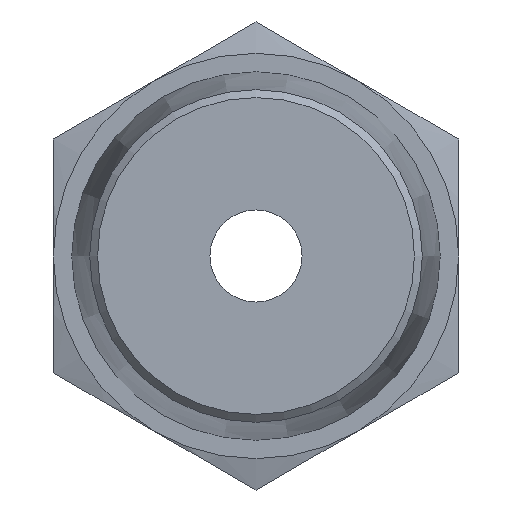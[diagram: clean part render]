
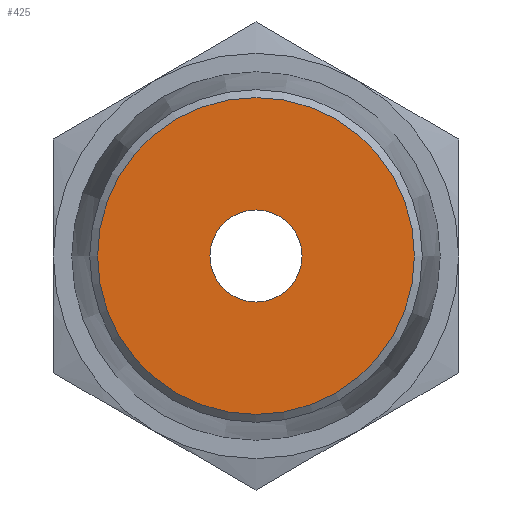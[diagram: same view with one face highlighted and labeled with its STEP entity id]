
A CAD part, front view. The second image highlights one B-rep face of the part: STEP entity #425.
In plain terms, the highlighted planar face has unit normal (0, -1, 0).
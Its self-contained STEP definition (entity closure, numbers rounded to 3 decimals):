
#43=FACE_BOUND('',#95,.T.);
#49=PLANE('',#483);
#63=FACE_OUTER_BOUND('',#94,.T.);
#94=EDGE_LOOP('',(#292));
#95=EDGE_LOOP('',(#293));
#157=CIRCLE('',#480,4.3);
#159=CIRCLE('',#484,1.25);
#183=VERTEX_POINT('',#669);
#185=VERTEX_POINT('',#677);
#222=EDGE_CURVE('',#183,#183,#157,.T.);
#225=EDGE_CURVE('',#185,#185,#159,.T.);
#292=ORIENTED_EDGE('',*,*,#222,.F.);
#293=ORIENTED_EDGE('',*,*,#225,.T.);
#425=ADVANCED_FACE('',(#63,#43),#49,.T.);
#480=AXIS2_PLACEMENT_3D('',#671,#543,#544);
#483=AXIS2_PLACEMENT_3D('',#676,#550,#551);
#484=AXIS2_PLACEMENT_3D('',#678,#552,#553);
#543=DIRECTION('center_axis',(0.,1.,0.));
#544=DIRECTION('ref_axis',(-1.,0.,0.));
#550=DIRECTION('center_axis',(0.,-1.,0.));
#551=DIRECTION('ref_axis',(0.,0.,-1.));
#552=DIRECTION('center_axis',(0.,1.,0.));
#553=DIRECTION('ref_axis',(1.,0.,0.));
#669=CARTESIAN_POINT('',(4.3,-7.,0.));
#671=CARTESIAN_POINT('Origin',(0.,-7.,0.));
#676=CARTESIAN_POINT('Origin',(4.5,-7.,0.));
#677=CARTESIAN_POINT('',(-1.25,-7.,0.));
#678=CARTESIAN_POINT('Origin',(0.,-7.,0.));
